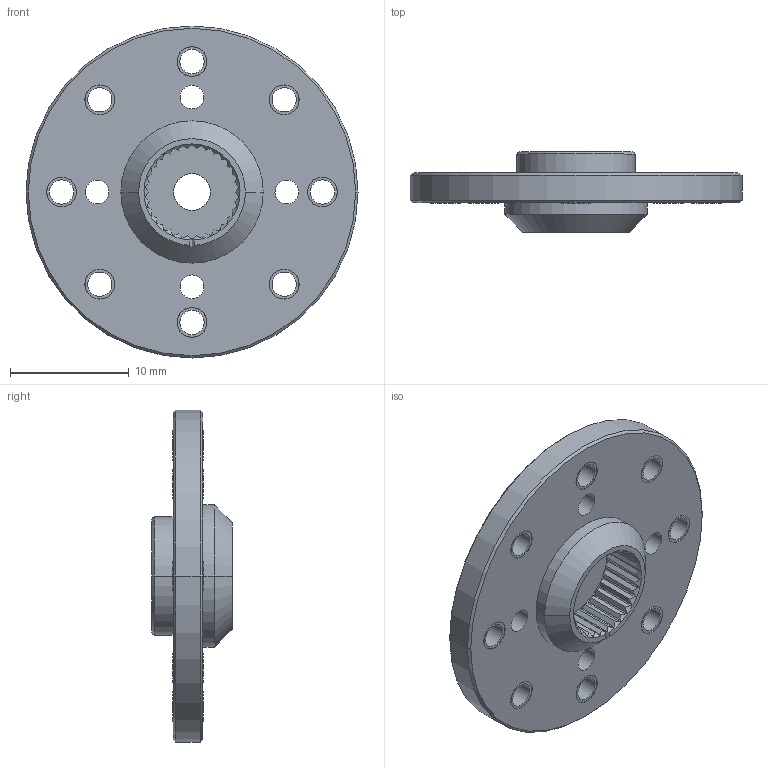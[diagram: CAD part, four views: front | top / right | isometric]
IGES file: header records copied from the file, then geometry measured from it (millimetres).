
Start section:  PTC IGES file: HN05-T101.igs
Global section: file name: HN05-T101.igs; native system: Pro/ENGINEER by Parametric Technology Corporation; preprocessor: 2009060; author: Andy; organization: Unknown; date: 20111107.150926; units: millimetre
Bounding box: 28 x 6.8 x 28 mm (x, y, z)
Surface area: 2465.9 mm2 (no closed solid volume)
Topology: 0 solids, 0 shells, 206 faces, 1454 edges, 1656 vertices
Faces by surface type: revolution 139, bspline 67
